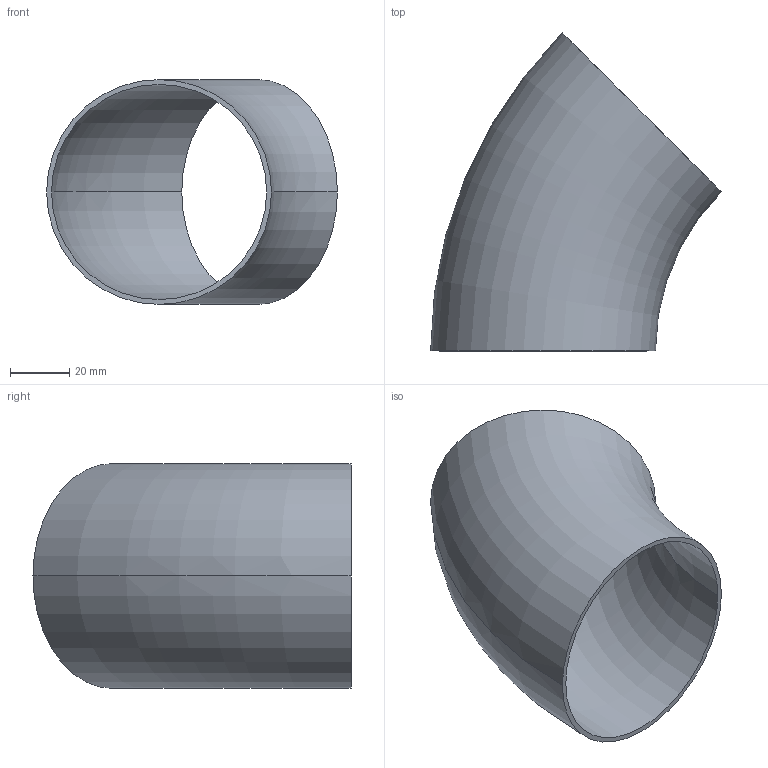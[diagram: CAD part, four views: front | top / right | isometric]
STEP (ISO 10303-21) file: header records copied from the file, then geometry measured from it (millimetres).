
FILE_DESCRIPTION (( 'STEP AP203' ), '1' );
FILE_NAME ('E2WK3.0.STEP', '2018-04-30T18:09:05', ( 'vneprd' ), ( 'Microsoft' ), 'SwSTEP 2.0', 'SolidWorks 2014', '' );
FILE_SCHEMA (( 'CONFIG_CONTROL_DESIGN' ));
Length unit declared in the file: inch
Products named in the file (1): E2WK3.0
Bounding box: 98.52 x 107.76 x 76.2 mm (x, y, z)
Volume: 34711.6 mm3; surface area: 42822.5 mm2
Topology: 1 solids, 1 shells, 6 faces, 12 edges, 8 vertices
Faces by surface type: torus 4, plane 2
Entity records: 251 total; most frequent: DIRECTION 38, CARTESIAN_POINT 27, ORIENTED_EDGE 24, AXIS2_PLACEMENT_3D 19, CIRCLE 12, EDGE_CURVE 12, VERTEX_POINT 8, PERSON_AND_ORGANIZATION 8
